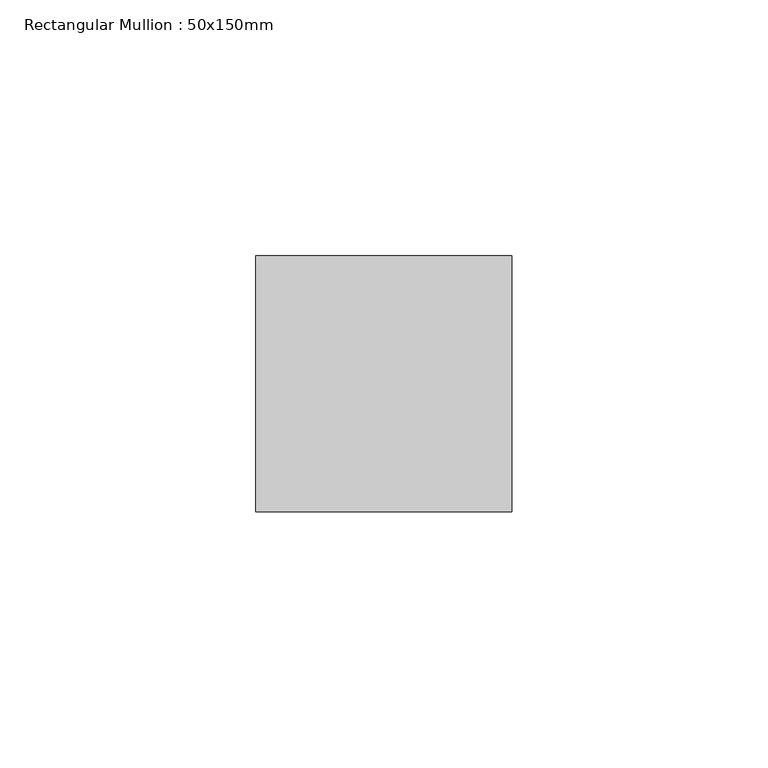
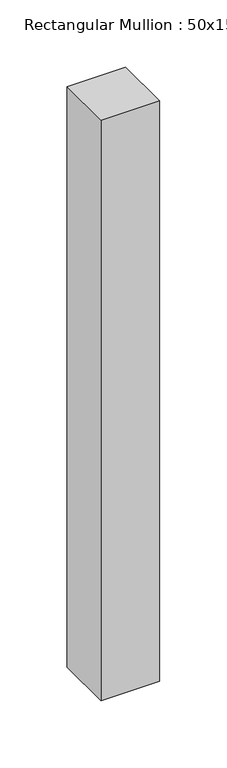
"""IFC4 building model written with IfcOpenShell, lengths in millimetres: member geometry, Rectangular Mullion : 50x150mm."""

from ifc_helpers import new_model, si_unit, frame, origin, place, context, project, spatial, polyline, outline, extrude, source, transform, mapped, element, save


def rectangular_mullion_50x150mm_a8f8c755(model_context):
    return source(origin(), model_context, "Body", "SweptSolid", [
        extrude(outline(polyline([(25.0, 25.0), (25.0, -25.0), (-25.0, -25.0), (-25.0, 25.0), (25.0, 25.0)])), frame((0.0, 0.0, -525.0), z_axis=(0.0, 0.0, 1.0), x_axis=(1.0, 0.0, 0.0)), (0.0, 0.0, 1.0), 525.0),
    ])


if __name__ == "__main__":
    model = new_model("IFC4")
    model_context = context("Model", 3, world=origin())
    ifc_project = project(units=[si_unit("LENGTHUNIT", "METRE", prefix="MILLI")], contexts=[model_context])
    site = spatial("IfcSite", under=ifc_project)
    building = spatial("IfcBuilding", under=site)
    placement = place(None, origin())
    rectangular_mullion_50x150mm_shape = rectangular_mullion_50x150mm_a8f8c755(model_context)
    element("IfcMember", 1, ObjectType="Rectangular Mullion : 50x150mm", at=placement, inside=building, context=model_context, shape_type="MappedRepresentation", body=[
        mapped(rectangular_mullion_50x150mm_shape, transform((0.0, 0.0, 0.0), x_axis=(1.0, 0.0, 0.0), y_axis=(0.0, 1.0, 0.0), z_axis=(0.0, 0.0, 1.0))),
    ])
    save(model, "model.ifc")
